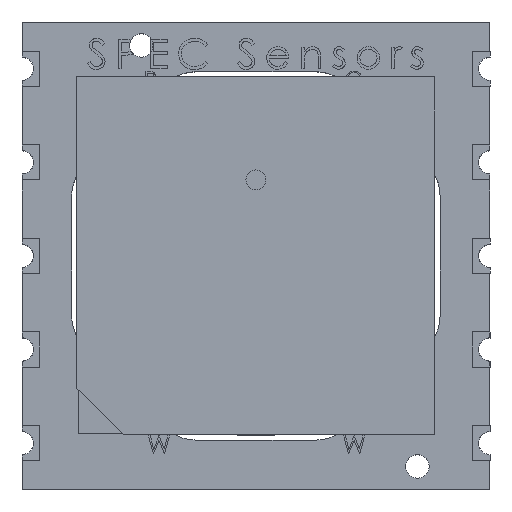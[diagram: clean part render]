
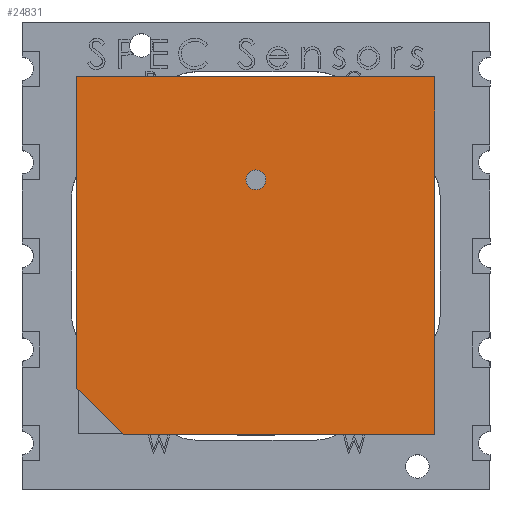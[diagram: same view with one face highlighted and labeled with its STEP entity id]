
A CAD part, top view. The second image highlights one B-rep face of the part: STEP entity #24831.
In plain terms, the highlighted planar face has unit normal (0, 0, 1).
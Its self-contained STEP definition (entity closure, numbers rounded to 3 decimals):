
#345 = CARTESIAN_POINT ( 'NONE',  ( -4.712, 22.389, 1.648 ) ) ;
#700 = DIRECTION ( 'NONE',  ( 1., 0., 0. ) ) ;
#2181 = EDGE_LOOP ( 'NONE', ( #12457 ) ) ;
#2258 = AXIS2_PLACEMENT_3D ( 'NONE', #16406, #7261, #700 ) ;
#2325 = EDGE_CURVE ( 'NONE', #3106, #26710, #5684, .T. ) ;
#2429 = CARTESIAN_POINT ( 'NONE',  ( -4.712, 22.389, 1.648 ) ) ;
#3106 = VERTEX_POINT ( 'NONE', #6634 ) ;
#3235 = VERTEX_POINT ( 'NONE', #345 ) ;
#3492 = CARTESIAN_POINT ( 'NONE',  ( -11.937, 17.989, 1.648 ) ) ;
#3908 = DIRECTION ( 'NONE',  ( -1., 0., 0. ) ) ;
#4553 = DIRECTION ( 'NONE',  ( 0., 0., 1. ) ) ;
#4600 = CIRCLE ( 'NONE', #2258, 0.425 ) ;
#5673 = VERTEX_POINT ( 'NONE', #26998 ) ;
#5684 = LINE ( 'NONE', #10027, #10974 ) ;
#6634 = CARTESIAN_POINT ( 'NONE',  ( -20.012, 9.089, 1.648 ) ) ;
#7261 = DIRECTION ( 'NONE',  ( 0., 0., 1. ) ) ;
#9841 = LINE ( 'NONE', #19042, #23216 ) ;
#10027 = CARTESIAN_POINT ( 'NONE',  ( -20.012, 9.089, 1.648 ) ) ;
#10160 = DIRECTION ( 'NONE',  ( 1., 0., 0. ) ) ;
#10974 = VECTOR ( 'NONE', #28016, 1000. ) ;
#11278 = FACE_OUTER_BOUND ( 'NONE', #12069, .T. ) ;
#11418 = DIRECTION ( 'NONE',  ( 1., 0., 0. ) ) ;
#11565 = VECTOR ( 'NONE', #25741, 1000. ) ;
#12069 = EDGE_LOOP ( 'NONE', ( #15741, #12411, #12684, #13128, #27357 ) ) ;
#12411 = ORIENTED_EDGE ( 'NONE', *, *, #28801, .T. ) ;
#12457 = ORIENTED_EDGE ( 'NONE', *, *, #24350, .F. ) ;
#12684 = ORIENTED_EDGE ( 'NONE', *, *, #25291, .T. ) ;
#13128 = ORIENTED_EDGE ( 'NONE', *, *, #2325, .T. ) ;
#14971 = VECTOR ( 'NONE', #3908, 1000. ) ;
#15128 = FACE_BOUND ( 'NONE', #2181, .T. ) ;
#15305 = CARTESIAN_POINT ( 'NONE',  ( -20.012, 22.389, 1.648 ) ) ;
#15741 = ORIENTED_EDGE ( 'NONE', *, *, #22535, .T. ) ;
#16136 = LINE ( 'NONE', #16903, #11565 ) ;
#16200 = AXIS2_PLACEMENT_3D ( 'NONE', #26105, #4553, #11418 ) ;
#16406 = CARTESIAN_POINT ( 'NONE',  ( -12.362, 17.989, 1.648 ) ) ;
#16903 = CARTESIAN_POINT ( 'NONE',  ( -20.012, 22.389, 1.648 ) ) ;
#17264 = CARTESIAN_POINT ( 'NONE',  ( -4.712, 7.089, 1.648 ) ) ;
#17563 = PLANE ( 'NONE',  #16200 ) ;
#19042 = CARTESIAN_POINT ( 'NONE',  ( -18.012, 7.089, 1.648 ) ) ;
#22054 = VERTEX_POINT ( 'NONE', #3492 ) ;
#22528 = LINE ( 'NONE', #2429, #27083 ) ;
#22535 = EDGE_CURVE ( 'NONE', #27965, #3235, #22528, .T. ) ;
#22960 = DIRECTION ( 'NONE',  ( 0., 1., 0. ) ) ;
#23216 = VECTOR ( 'NONE', #10160, 1000. ) ;
#23798 = LINE ( 'NONE', #15305, #14971 ) ;
#24350 = EDGE_CURVE ( 'NONE', #22054, #22054, #4600, .T. ) ;
#24802 = EDGE_CURVE ( 'NONE', #26710, #27965, #9841, .T. ) ;
#24831 = ADVANCED_FACE ( 'NONE', ( #15128, #11278 ), #17563, .T. ) ;
#25291 = EDGE_CURVE ( 'NONE', #5673, #3106, #16136, .T. ) ;
#25741 = DIRECTION ( 'NONE',  ( 0., -1., 0. ) ) ;
#26105 = CARTESIAN_POINT ( 'NONE',  ( 0., 0., 1.648 ) ) ;
#26710 = VERTEX_POINT ( 'NONE', #28145 ) ;
#26998 = CARTESIAN_POINT ( 'NONE',  ( -20.012, 22.389, 1.648 ) ) ;
#27083 = VECTOR ( 'NONE', #22960, 1000. ) ;
#27357 = ORIENTED_EDGE ( 'NONE', *, *, #24802, .T. ) ;
#27965 = VERTEX_POINT ( 'NONE', #17264 ) ;
#28016 = DIRECTION ( 'NONE',  ( 0.707, -0.707, 0. ) ) ;
#28145 = CARTESIAN_POINT ( 'NONE',  ( -18.012, 7.089, 1.648 ) ) ;
#28801 = EDGE_CURVE ( 'NONE', #3235, #5673, #23798, .T. ) ;
